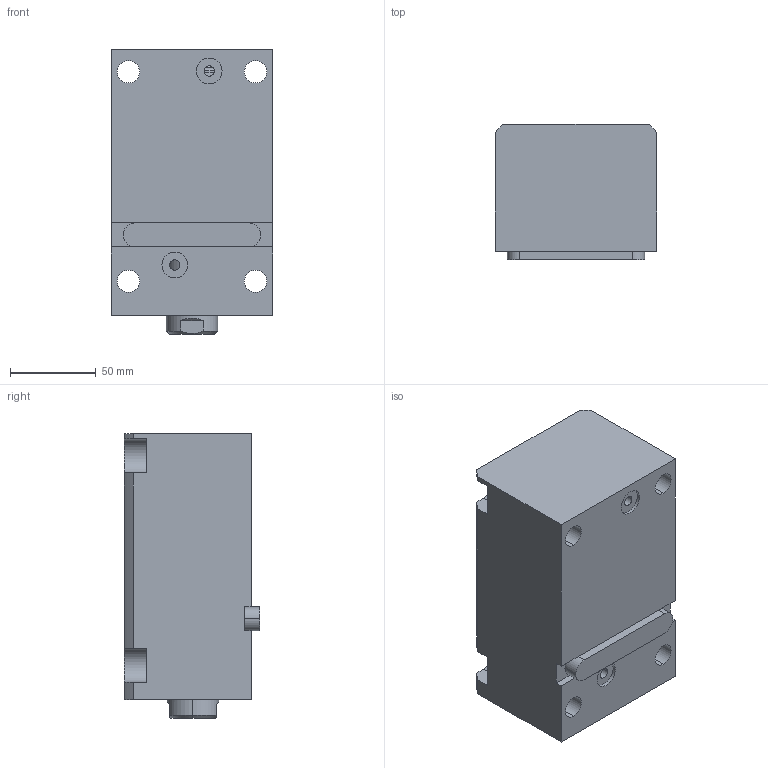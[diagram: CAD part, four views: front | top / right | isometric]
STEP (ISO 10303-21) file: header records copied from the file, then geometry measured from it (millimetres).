
FILE_DESCRIPTION (( 'STEP AP203' ), '1' );
FILE_NAME ('CHTB-LAM50-95N.STEP', '2018-05-23T11:24:15', ( '' ), ( '' ), 'SwSTEP 2.0', 'SolidWorks 2015', '' );
FILE_SCHEMA (( 'CONFIG_CONTROL_DESIGN' ));
Length unit declared in the file: millimetre
Products named in the file (4): CHTB-LAM50-95N; CHTM-SDMA50QG; 掛极LAM50-95N; 活塞杆LAM50-95N
Assembly tree (3 placements, depth 2):
  CHTB-LAM50-95N
    掛极LAM50-95N
    活塞杆LAM50-95N
    CHTM-SDMA50QG
Bounding box: 94 x 79 x 166 mm (x, y, z)
Volume: 903175.2 mm3; surface area: 138406.3 mm2
Topology: 3 solids, 3 shells, 192 faces, 524 edges, 347 vertices
Faces by surface type: cylinder 96, plane 51, torus 16, cone 15, bspline 14
Entity records: 11011 total; most frequent: CARTESIAN_POINT 5956, ORIENTED_EDGE 1036, DIRECTION 908, EDGE_CURVE 518, AXIS2_PLACEMENT_3D 356, VERTEX_POINT 347, EDGE_LOOP 221, LINE 196
